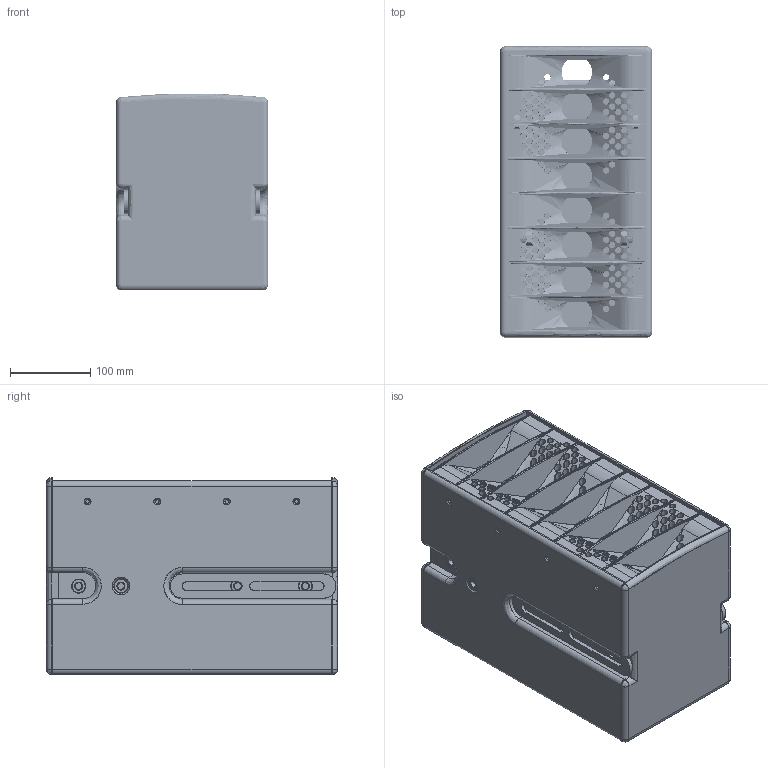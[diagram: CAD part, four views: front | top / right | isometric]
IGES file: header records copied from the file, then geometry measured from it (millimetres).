
Start section: SolidWorks IGES file using analytic representation for surfaces
Global section: file name: C:\Documents and Settings\Administrator\My Documents\Michl\SolidWorks\GL8\GL8i\Homepage\GL8i.IGS; native system: SolidWorks 2009; preprocessor: SolidWorks 2009; author: Administrator; date: 150714.151736; units: millimetre
Bounding box: 189 x 362 x 245 mm (x, y, z)
Surface area: 1203853 mm2 (no closed solid volume)
Topology: 0 solids, 0 shells, 1135 faces, 28242 edges, 28230 vertices
Faces by surface type: revolution 728, bspline 407
